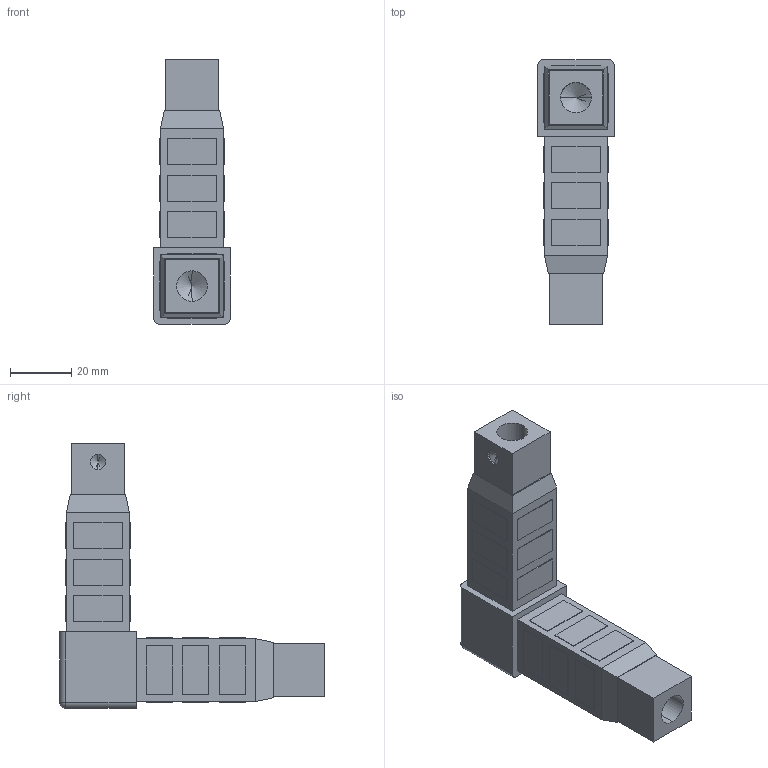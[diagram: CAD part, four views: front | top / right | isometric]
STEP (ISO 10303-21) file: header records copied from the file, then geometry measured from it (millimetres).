
FILE_DESCRIPTION (( 'STEP AP203' ), '1' );
FILE_NAME ('F025102.STEP', '2017-03-22T12:36:35', ( 'Localadmin' ), ( 'Microsoft' ), 'SwSTEP 2.0', 'SolidWorks 2016', '' );
FILE_SCHEMA (( 'CONFIG_CONTROL_DESIGN' ));
Length unit declared in the file: millimetre
Products named in the file (1): F025102
Bounding box: 25 x 86.5 x 86.5 mm (x, y, z)
Volume: 53558.7 mm3; surface area: 33551.6 mm2
Topology: 2 solids, 2 shells, 177 faces, 423 edges, 271 vertices
Faces by surface type: plane 158, cylinder 11, cone 6, sphere 2
Entity records: 5034 total; most frequent: CARTESIAN_POINT 864, ORIENTED_EDGE 830, DIRECTION 793, EDGE_CURVE 415, LINE 393, VECTOR 393, VERTEX_POINT 271, EDGE_LOOP 208
